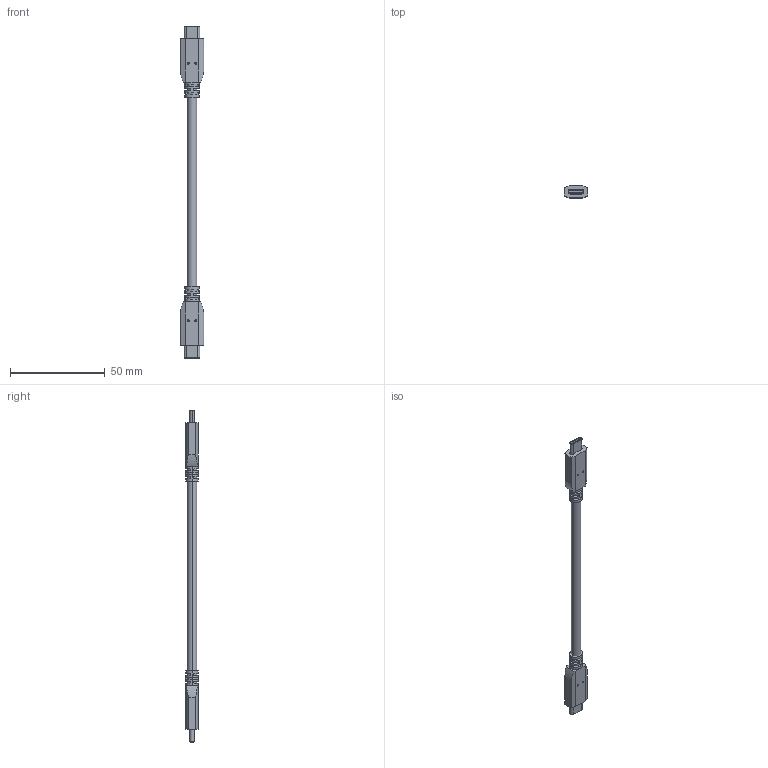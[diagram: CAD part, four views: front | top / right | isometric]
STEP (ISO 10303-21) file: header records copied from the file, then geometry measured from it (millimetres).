
FILE_DESCRIPTION (( 'STEP AP203' ), '1' );
FILE_NAME ('RR-CSX2-XXG.STEP', '2016-03-03T02:26:35', ( '' ), ( '' ), 'SwSTEP 2.0', 'SolidWorks 2012', '' );
FILE_SCHEMA (( 'CONFIG_CONTROL_DESIGN' ));
Length unit declared in the file: millimetre
Products named in the file (3): RR-CS; RR-CSX2-XXG; Cable
Assembly tree (3 placements, depth 2):
  RR-CSX2-XXG
    RR-CS  x2
    Cable
Bounding box: 12.3 x 6.5 x 175.3 mm (x, y, z)
Volume: 6152.3 mm3; surface area: 5004.4 mm2
Topology: 3 solids, 3 shells, 162 faces, 446 edges, 288 vertices
Faces by surface type: plane 76, cylinder 68, cone 8, torus 6, bspline 4
Entity records: 3294 total; most frequent: CARTESIAN_POINT 917, ORIENTED_EDGE 452, DIRECTION 409, EDGE_CURVE 226, AXIS2_PLACEMENT_3D 150, VERTEX_POINT 146, VECTOR 109, LINE 109
